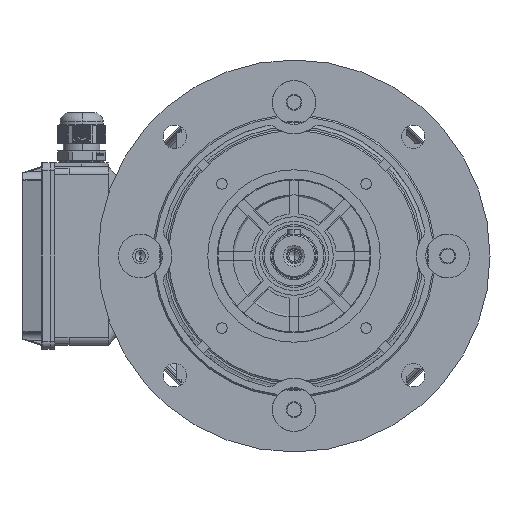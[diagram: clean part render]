
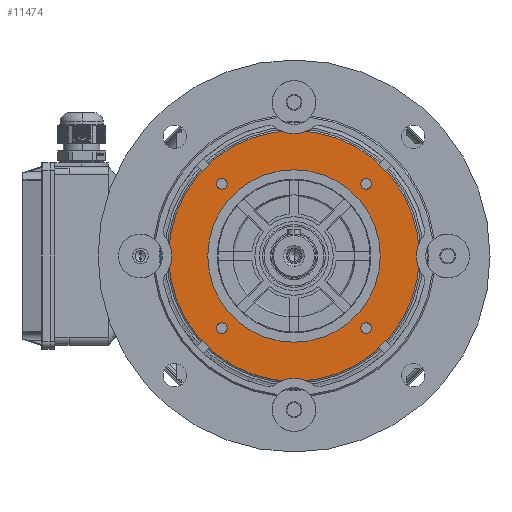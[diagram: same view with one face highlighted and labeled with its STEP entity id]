
A CAD part, left-side view. The second image highlights one B-rep face of the part: STEP entity #11474.
In plain terms, the highlighted planar face has unit normal (-1, 0, 0).
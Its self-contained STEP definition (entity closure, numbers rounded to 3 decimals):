
#11363 = EDGE_CURVE ( 'NONE', #29141, #29070, #128521, .T. ) ;
#11364 = ORIENTED_EDGE ( 'NONE', *, *, #11506, .T. ) ;
#11366 = EDGE_LOOP ( 'NONE', ( #11373, #11441 ) ) ;
#11373 = ORIENTED_EDGE ( 'NONE', *, *, #11550, .T. ) ;
#11439 = EDGE_CURVE ( 'NONE', #35319, #35778, #128575, .T. ) ;
#11441 = ORIENTED_EDGE ( 'NONE', *, *, #33239, .T. ) ;
#11449 = ORIENTED_EDGE ( 'NONE', *, *, #31731, .T. ) ;
#11454 = EDGE_LOOP ( 'NONE', ( #11486, #11449 ) ) ;
#11458 = EDGE_LOOP ( 'NONE', ( #11364, #11467 ) ) ;
#11463 = EDGE_CURVE ( 'NONE', #31733, #31659, #128633, .T. ) ;
#11467 = ORIENTED_EDGE ( 'NONE', *, *, #31632, .T. ) ;
#11474 = ADVANCED_FACE ( 'NONE', ( #128614, #128573, #128625, #128620, #128616, #128609 ), #128621, .F. ) ;
#11486 = ORIENTED_EDGE ( 'NONE', *, *, #11463, .T. ) ;
#11489 = EDGE_LOOP ( 'NONE', ( #11499, #11548 ) ) ;
#11499 = ORIENTED_EDGE ( 'NONE', *, *, #11363, .T. ) ;
#11506 = EDGE_CURVE ( 'NONE', #31627, #31744, #128615, .T. ) ;
#11538 = EDGE_LOOP ( 'NONE', ( #11542, #11580 ) ) ;
#11542 = ORIENTED_EDGE ( 'NONE', *, *, #35837, .T. ) ;
#11548 = ORIENTED_EDGE ( 'NONE', *, *, #29062, .T. ) ;
#11550 = EDGE_CURVE ( 'NONE', #33100, #33241, #128672, .T. ) ;
#11561 = ORIENTED_EDGE ( 'NONE', *, *, #11572, .F. ) ;
#11568 = EDGE_LOOP ( 'NONE', ( #11570, #11561 ) ) ;
#11570 = ORIENTED_EDGE ( 'NONE', *, *, #35432, .F. ) ;
#11572 = EDGE_CURVE ( 'NONE', #35383, #35434, #128715, .T. ) ;
#11580 = ORIENTED_EDGE ( 'NONE', *, *, #11439, .T. ) ;
#29062 = EDGE_CURVE ( 'NONE', #29070, #29141, #67993, .T. ) ;
#29070 = VERTEX_POINT ( 'NONE', #68018 ) ;
#29141 = VERTEX_POINT ( 'NONE', #68111 ) ;
#31627 = VERTEX_POINT ( 'NONE', #71345 ) ;
#31632 = EDGE_CURVE ( 'NONE', #31744, #31627, #71341, .T. ) ;
#31659 = VERTEX_POINT ( 'NONE', #71375 ) ;
#31731 = EDGE_CURVE ( 'NONE', #31659, #31733, #71446, .T. ) ;
#31733 = VERTEX_POINT ( 'NONE', #71479 ) ;
#31744 = VERTEX_POINT ( 'NONE', #71473 ) ;
#33100 = VERTEX_POINT ( 'NONE', #76270 ) ;
#33239 = EDGE_CURVE ( 'NONE', #33241, #33100, #77277, .T. ) ;
#33241 = VERTEX_POINT ( 'NONE', #76554 ) ;
#35319 = VERTEX_POINT ( 'NONE', #87183 ) ;
#35383 = VERTEX_POINT ( 'NONE', #87301 ) ;
#35432 = EDGE_CURVE ( 'NONE', #35434, #35383, #87322, .T. ) ;
#35434 = VERTEX_POINT ( 'NONE', #87336 ) ;
#35778 = VERTEX_POINT ( 'NONE', #87673 ) ;
#35837 = EDGE_CURVE ( 'NONE', #35778, #35319, #87810, .T. ) ;
#67993 = CIRCLE ( 'NONE', #68026, 3.4 ) ;
#68013 = DIRECTION ( 'NONE',  ( 0., 0., -1. ) ) ;
#68014 = DIRECTION ( 'NONE',  ( 1., 0., 0. ) ) ;
#68015 = CARTESIAN_POINT ( 'NONE',  ( -16., -45.962, -45.962 ) ) ;
#68018 = CARTESIAN_POINT ( 'NONE',  ( -16., -45.962, -42.562 ) ) ;
#68026 = AXIS2_PLACEMENT_3D ( 'NONE', #68015, #68014, #68013 ) ;
#68111 = CARTESIAN_POINT ( 'NONE',  ( -16., -45.962, -49.362 ) ) ;
#71334 = AXIS2_PLACEMENT_3D ( 'NONE', #71344, #71394, #71393 ) ;
#71341 = CIRCLE ( 'NONE', #71334, 3.4 ) ;
#71344 = CARTESIAN_POINT ( 'NONE',  ( -16., -45.962, 45.962 ) ) ;
#71345 = CARTESIAN_POINT ( 'NONE',  ( -16., -45.962, 42.562 ) ) ;
#71375 = CARTESIAN_POINT ( 'NONE',  ( -16., 45.962, 49.362 ) ) ;
#71393 = DIRECTION ( 'NONE',  ( 0., 0., -1. ) ) ;
#71394 = DIRECTION ( 'NONE',  ( 1., 0., 0. ) ) ;
#71446 = CIRCLE ( 'NONE', #71478, 3.4 ) ;
#71473 = CARTESIAN_POINT ( 'NONE',  ( -16., -45.962, 49.362 ) ) ;
#71476 = DIRECTION ( 'NONE',  ( 0., 0., -1. ) ) ;
#71477 = DIRECTION ( 'NONE',  ( 1., 0., 0. ) ) ;
#71478 = AXIS2_PLACEMENT_3D ( 'NONE', #71487, #71477, #71476 ) ;
#71479 = CARTESIAN_POINT ( 'NONE',  ( -16., 45.962, 42.562 ) ) ;
#71487 = CARTESIAN_POINT ( 'NONE',  ( -16., 45.962, 45.962 ) ) ;
#76270 = CARTESIAN_POINT ( 'NONE',  ( -16., 45.962, -49.362 ) ) ;
#76452 = DIRECTION ( 'NONE',  ( 0., 0., -1. ) ) ;
#76453 = DIRECTION ( 'NONE',  ( 1., 0., 0. ) ) ;
#76554 = CARTESIAN_POINT ( 'NONE',  ( -16., 45.962, -42.562 ) ) ;
#77262 = CARTESIAN_POINT ( 'NONE',  ( -16., 45.962, -45.962 ) ) ;
#77271 = AXIS2_PLACEMENT_3D ( 'NONE', #77262, #76453, #76452 ) ;
#77277 = CIRCLE ( 'NONE', #77271, 3.4 ) ;
#87183 = CARTESIAN_POINT ( 'NONE',  ( -16., 0., -80. ) ) ;
#87301 = CARTESIAN_POINT ( 'NONE',  ( -16., 0., -55. ) ) ;
#87318 = DIRECTION ( 'NONE',  ( 0., 0., 1. ) ) ;
#87319 = DIRECTION ( 'NONE',  ( -1., 0., 0. ) ) ;
#87320 = AXIS2_PLACEMENT_3D ( 'NONE', #87326, #87319, #87318 ) ;
#87322 = CIRCLE ( 'NONE', #87320, 55. ) ;
#87326 = CARTESIAN_POINT ( 'NONE',  ( -16., 0., 0. ) ) ;
#87336 = CARTESIAN_POINT ( 'NONE',  ( -16., 0., 55. ) ) ;
#87673 = CARTESIAN_POINT ( 'NONE',  ( -16., 0., 80. ) ) ;
#87777 = DIRECTION ( 'NONE',  ( 0., 0., 1. ) ) ;
#87778 = DIRECTION ( 'NONE',  ( -1., 0., 0. ) ) ;
#87779 = AXIS2_PLACEMENT_3D ( 'NONE', #87784, #87778, #87777 ) ;
#87784 = CARTESIAN_POINT ( 'NONE',  ( -16., 0., 0. ) ) ;
#87810 = CIRCLE ( 'NONE', #87779, 80. ) ;
#127166 = DIRECTION ( 'NONE',  ( 0., 0., -1. ) ) ;
#128508 = DIRECTION ( 'NONE',  ( 0., 0., -1. ) ) ;
#128509 = DIRECTION ( 'NONE',  ( 1., 0., 0. ) ) ;
#128510 = CARTESIAN_POINT ( 'NONE',  ( -16., -45.962, -45.962 ) ) ;
#128521 = CIRCLE ( 'NONE', #128536, 3.4 ) ;
#128536 = AXIS2_PLACEMENT_3D ( 'NONE', #128510, #128509, #128508 ) ;
#128569 = DIRECTION ( 'NONE',  ( 0., 0., 1. ) ) ;
#128570 = DIRECTION ( 'NONE',  ( -1., 0., 0. ) ) ;
#128572 = AXIS2_PLACEMENT_3D ( 'NONE', #128624, #128623, #128622 ) ;
#128573 = FACE_BOUND ( 'NONE', #11458, .T. ) ;
#128575 = CIRCLE ( 'NONE', #128582, 80. ) ;
#128582 = AXIS2_PLACEMENT_3D ( 'NONE', #128583, #128570, #128569 ) ;
#128583 = CARTESIAN_POINT ( 'NONE',  ( -16., 0., 0. ) ) ;
#128602 = DIRECTION ( 'NONE',  ( 0., 0., -1. ) ) ;
#128603 = DIRECTION ( 'NONE',  ( 1., 0., 0. ) ) ;
#128604 = CARTESIAN_POINT ( 'NONE',  ( -16., 55., 0. ) ) ;
#128609 = FACE_BOUND ( 'NONE', #11568, .T. ) ;
#128614 = FACE_BOUND ( 'NONE', #11454, .T. ) ;
#128615 = CIRCLE ( 'NONE', #128654, 3.4 ) ;
#128616 = FACE_OUTER_BOUND ( 'NONE', #11538, .T. ) ;
#128620 = FACE_BOUND ( 'NONE', #11366, .T. ) ;
#128621 = PLANE ( 'NONE',  #128626 ) ;
#128622 = DIRECTION ( 'NONE',  ( 0., 0., -1. ) ) ;
#128623 = DIRECTION ( 'NONE',  ( 1., 0., 0. ) ) ;
#128624 = CARTESIAN_POINT ( 'NONE',  ( -16., 45.962, 45.962 ) ) ;
#128625 = FACE_BOUND ( 'NONE', #11489, .T. ) ;
#128626 = AXIS2_PLACEMENT_3D ( 'NONE', #128604, #128603, #128602 ) ;
#128633 = CIRCLE ( 'NONE', #128572, 3.4 ) ;
#128649 = DIRECTION ( 'NONE',  ( 0., 0., -1. ) ) ;
#128650 = DIRECTION ( 'NONE',  ( 1., 0., 0. ) ) ;
#128654 = AXIS2_PLACEMENT_3D ( 'NONE', #128666, #128650, #128649 ) ;
#128666 = CARTESIAN_POINT ( 'NONE',  ( -16., -45.962, 45.962 ) ) ;
#128667 = DIRECTION ( 'NONE',  ( 1., 0., 0. ) ) ;
#128668 = CARTESIAN_POINT ( 'NONE',  ( -16., 45.962, -45.962 ) ) ;
#128672 = CIRCLE ( 'NONE', #128679, 3.4 ) ;
#128679 = AXIS2_PLACEMENT_3D ( 'NONE', #128668, #128667, #127166 ) ;
#128704 = DIRECTION ( 'NONE',  ( 0., 0., 1. ) ) ;
#128705 = DIRECTION ( 'NONE',  ( -1., 0., 0. ) ) ;
#128706 = CARTESIAN_POINT ( 'NONE',  ( -16., 0., 0. ) ) ;
#128711 = AXIS2_PLACEMENT_3D ( 'NONE', #128706, #128705, #128704 ) ;
#128715 = CIRCLE ( 'NONE', #128711, 55. ) ;
